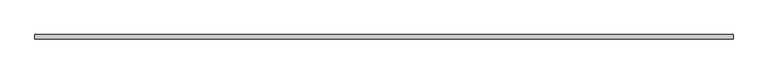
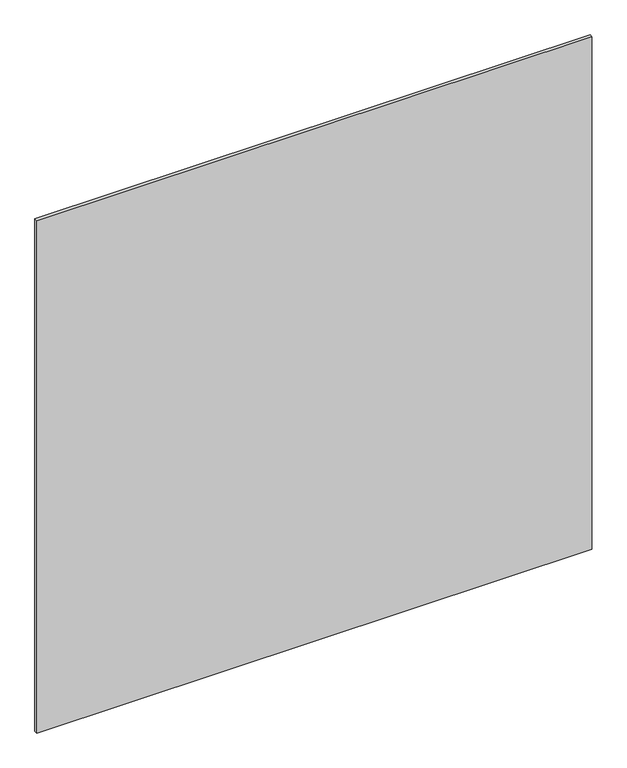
"""IFC4 building model written with IfcOpenShell, lengths in millimetres: proxy geometry."""

from ifc_helpers import new_model, si_unit, frame, origin, place, context, project, spatial, polyline, outline, extrude, source, transform, mapped, element, save


def generic_models_66475f86(model_context):
    return source(origin(), model_context, "Body", "SweptSolid", [
        extrude(outline(polyline([(2860.0, -5.0), (1200.0, -5.0), (1200.0, 5.0), (2860.0, 5.0), (2860.0, -5.0)])), frame((0.0, 0.0, 880.0), z_axis=(0.0, 0.0, 1.0), x_axis=(1.0, 0.0, 0.0)), (0.0, 0.0, 1.0), 1620.0),
    ])


if __name__ == "__main__":
    model = new_model("IFC4")
    model_context = context("Model", 3, world=origin())
    ifc_project = project(units=[si_unit("LENGTHUNIT", "METRE", prefix="MILLI")], contexts=[model_context])
    site = spatial("IfcSite", under=ifc_project)
    building = spatial("IfcBuilding", under=site)
    placement = place(None, origin())
    generic_models_shape = generic_models_66475f86(model_context)
    element("IfcBuildingElementProxy", 1, Name="Generic Models", at=placement, inside=building, context=model_context, shape_type="MappedRepresentation", body=[
        mapped(generic_models_shape, transform((0.0, 0.0, 0.0), x_axis=(1.0, 0.0, 0.0), y_axis=(0.0, 1.0, 0.0), z_axis=(0.0, 0.0, 1.0))),
    ])
    save(model, "model.ifc")
